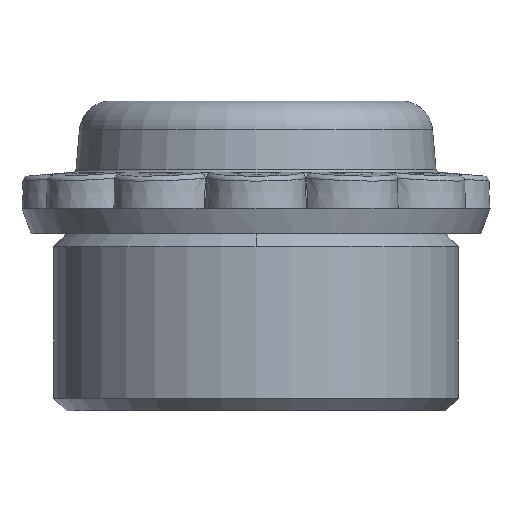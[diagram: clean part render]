
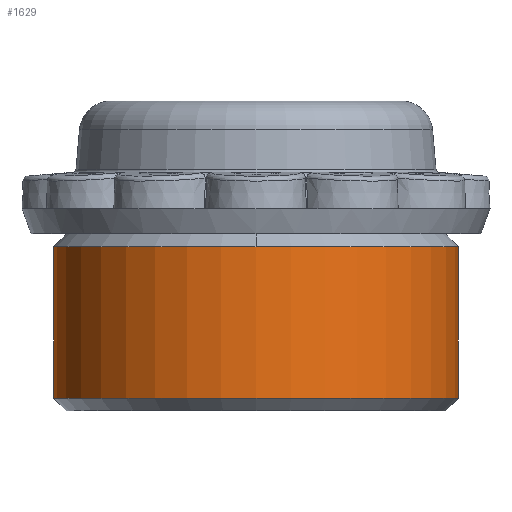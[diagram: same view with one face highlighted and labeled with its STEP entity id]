
A CAD part, left-side view. The second image highlights one B-rep face of the part: STEP entity #1629.
In plain terms, the highlighted cylindrical face has radius 16 mm (diameter 32 mm), a partial arc.
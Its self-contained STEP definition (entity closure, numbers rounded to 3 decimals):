
#900 = EDGE_CURVE ( 'NONE', #974, #961, #31873, .T. ) ;
#961 = VERTEX_POINT ( 'NONE', #31994 ) ;
#974 = VERTEX_POINT ( 'NONE', #31952 ) ;
#997 = VERTEX_POINT ( 'NONE', #32238 ) ;
#999 = VERTEX_POINT ( 'NONE', #32195 ) ;
#1011 = EDGE_CURVE ( 'NONE', #999, #1034, #32139, .T. ) ;
#1034 = VERTEX_POINT ( 'NONE', #32106 ) ;
#1095 = EDGE_CURVE ( 'NONE', #997, #974, #32458, .T. ) ;
#1629 = ADVANCED_FACE ( 'NONE', ( #33248 ), #33498, .T. ) ;
#1634 = ORIENTED_EDGE ( 'NONE', *, *, #1635, .T. ) ;
#1635 = EDGE_CURVE ( 'NONE', #997, #999, #33487, .T. ) ;
#1651 = ORIENTED_EDGE ( 'NONE', *, *, #900, .F. ) ;
#1683 = ORIENTED_EDGE ( 'NONE', *, *, #1011, .T. ) ;
#1684 = ORIENTED_EDGE ( 'NONE', *, *, #1715, .F. ) ;
#1699 = EDGE_LOOP ( 'NONE', ( #1700, #1634, #1683, #1684, #1651 ) ) ;
#1700 = ORIENTED_EDGE ( 'NONE', *, *, #1095, .F. ) ;
#1715 = EDGE_CURVE ( 'NONE', #961, #1034, #33686, .T. ) ;
#31870 = DIRECTION ( 'NONE',  ( 1., 0., 0. ) ) ;
#31871 = DIRECTION ( 'NONE',  ( 0., 0., 1. ) ) ;
#31872 = AXIS2_PLACEMENT_3D ( 'NONE', #31962, #31871, #31870 ) ;
#31873 = CIRCLE ( 'NONE', #31872, 16. ) ;
#31952 = CARTESIAN_POINT ( 'NONE',  ( 0., 16., -11.5 ) ) ;
#31962 = CARTESIAN_POINT ( 'NONE',  ( 0., 0., -11.5 ) ) ;
#31994 = CARTESIAN_POINT ( 'NONE',  ( -16., 0., -11.5 ) ) ;
#32106 = CARTESIAN_POINT ( 'NONE',  ( 0., -16., -11.5 ) ) ;
#32136 = DIRECTION ( 'NONE',  ( 0., 0., 1. ) ) ;
#32137 = VECTOR ( 'NONE', #32136, 1000. ) ;
#32138 = CARTESIAN_POINT ( 'NONE',  ( 0., -16., 0. ) ) ;
#32139 = LINE ( 'NONE', #32138, #32137 ) ;
#32195 = CARTESIAN_POINT ( 'NONE',  ( 0., -16., -23.5 ) ) ;
#32238 = CARTESIAN_POINT ( 'NONE',  ( 0., 16., -23.5 ) ) ;
#32455 = DIRECTION ( 'NONE',  ( 0., 0., 1. ) ) ;
#32456 = VECTOR ( 'NONE', #32455, 1000. ) ;
#32457 = CARTESIAN_POINT ( 'NONE',  ( 0., 16., 0. ) ) ;
#32458 = LINE ( 'NONE', #32457, #32456 ) ;
#33248 = FACE_OUTER_BOUND ( 'NONE', #1699, .T. ) ;
#33479 = DIRECTION ( 'NONE',  ( 0., -1., 0. ) ) ;
#33480 = DIRECTION ( 'NONE',  ( 0., 0., 1. ) ) ;
#33481 = CARTESIAN_POINT ( 'NONE',  ( 0., 0., -23.5 ) ) ;
#33482 = AXIS2_PLACEMENT_3D ( 'NONE', #33481, #33480, #33479 ) ;
#33487 = CIRCLE ( 'NONE', #33482, 16. ) ;
#33494 = DIRECTION ( 'NONE',  ( 0., -1., 0. ) ) ;
#33495 = DIRECTION ( 'NONE',  ( 0., 0., 1. ) ) ;
#33496 = CARTESIAN_POINT ( 'NONE',  ( 0., 0., 0. ) ) ;
#33497 = AXIS2_PLACEMENT_3D ( 'NONE', #33496, #33495, #33494 ) ;
#33498 = CYLINDRICAL_SURFACE ( 'NONE', #33497, 16. ) ;
#33644 = CARTESIAN_POINT ( 'NONE',  ( 0., 0., -11.5 ) ) ;
#33683 = DIRECTION ( 'NONE',  ( 1., 0., 0. ) ) ;
#33684 = DIRECTION ( 'NONE',  ( 0., 0., 1. ) ) ;
#33685 = AXIS2_PLACEMENT_3D ( 'NONE', #33644, #33684, #33683 ) ;
#33686 = CIRCLE ( 'NONE', #33685, 16. ) ;
